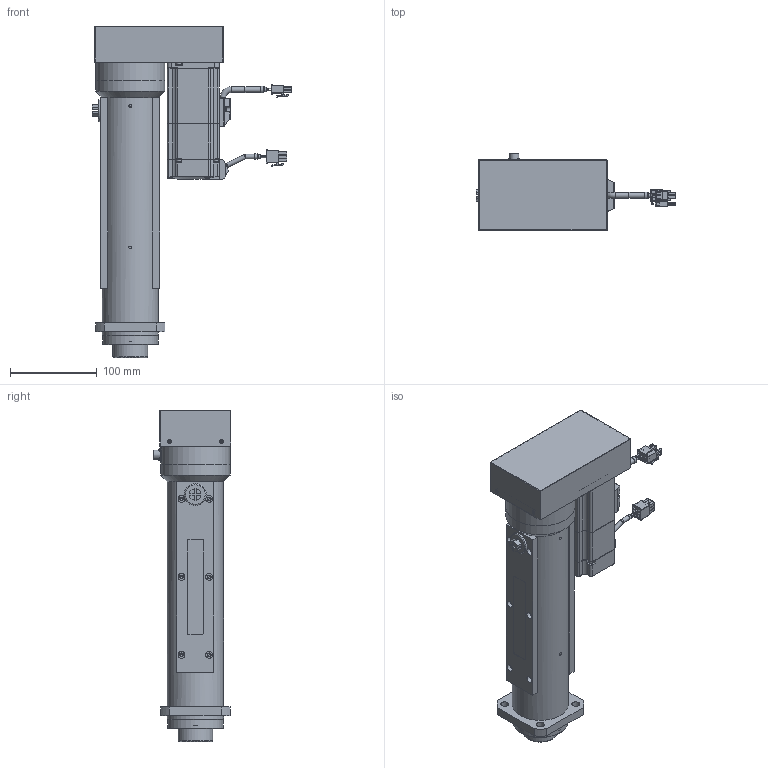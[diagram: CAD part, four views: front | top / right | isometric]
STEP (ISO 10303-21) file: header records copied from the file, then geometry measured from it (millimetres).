
FILE_DESCRIPTION( ('This file contains a STEP AP42 implementation' ,'as created by ZW3D STEP Interface translator.') ,'2;1' );
FILE_NAME( 'OACIS-DC-P001-P002-150-400-A6_V20.02.stp' ,'25 626.143517', (''), ('ZWCAD Software Co.'), 'Version 1.0', 'ZW3D to STEP translator', '' );
FILE_SCHEMA(('AUTOMOTIVE_DESIGN { 1 0 10303 214 1 1 1 1 }'));
Length unit declared in the file: millimetre
Products named in the file (1): 0
Bounding box: 230.44 x 89.7 x 382 mm (x, y, z)
Volume: 1654917.9 mm3; surface area: 482583.8 mm2
Topology: 46 solids, 55 shells, 2896 faces, 7621 edges, 4996 vertices
Faces by surface type: plane 1284, cylinder 1195, cone 286, torus 90, sphere 35, bspline 6
Full cylindrical faces by diameter (mm): 1 x19, 1.567 x4, 1.754 x2, 1.755 x2, 1.82 x4, 2 x5, 2.2 x4, 2.5 x8, 2.6 x15, 3.242 x22, 3.3 x29, 3.4 x4, 4 x10, 4.134 x5, 4.2 x4, 4.3 x12, 4.5 x25, 4.917 x1, 5 x3, 5.1 x2, 5.5 x12, 6 x19, 6.5 x4, 6.799 x3, 7 x10, 7.188 x1, 7.8 x1, 8 x18, 9 x5, 9.5 x4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
Entity records: 101205 total; most frequent: CARTESIAN_POINT 18591, DIRECTION 16466, ORIENTED_EDGE 15090, EDGE_CURVE 7545, AXIS2_PLACEMENT_3D 6439, VERTEX_POINT 4996, VECTOR 3588, LINE 3588
